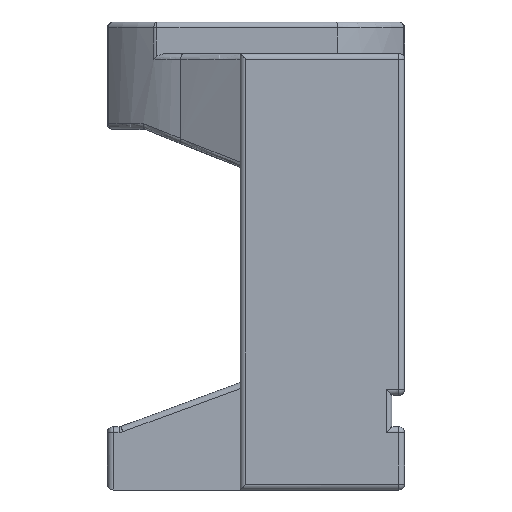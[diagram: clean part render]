
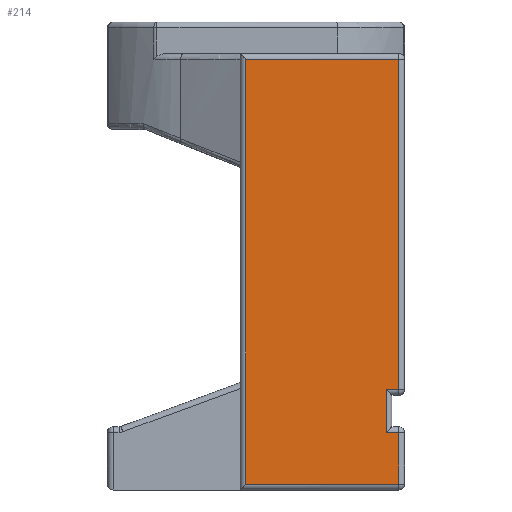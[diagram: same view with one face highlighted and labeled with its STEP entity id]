
A CAD part, left-side view. The second image highlights one B-rep face of the part: STEP entity #214.
In plain terms, the highlighted planar face has unit normal (-1, 0, 0).
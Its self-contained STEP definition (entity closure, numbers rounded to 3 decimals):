
#65 = CARTESIAN_POINT ( 'NONE',  ( -32.5, -24.1, 64. ) ) ;
#137 = EDGE_CURVE ( 'NONE', #3983, #1848, #380, .T. ) ;
#190 = ORIENTED_EDGE ( 'NONE', *, *, #137, .T. ) ;
#214 = ADVANCED_FACE ( 'NONE', ( #2610 ), #3252, .T. ) ;
#347 = CARTESIAN_POINT ( 'NONE',  ( -32.5, -24.1, 4.1 ) ) ;
#351 = CARTESIAN_POINT ( 'NONE',  ( -32.5, 0.1, -4.1 ) ) ;
#380 = LINE ( 'NONE', #4254, #6078 ) ;
#689 = AXIS2_PLACEMENT_3D ( 'NONE', #3267, #3223, #3162 ) ;
#841 = CARTESIAN_POINT ( 'NONE',  ( -32.5, -22.1, 10.9 ) ) ;
#864 = ORIENTED_EDGE ( 'NONE', *, *, #2885, .T. ) ;
#955 = EDGE_CURVE ( 'NONE', #4671, #6356, #5666, .T. ) ;
#1199 = ORIENTED_EDGE ( 'NONE', *, *, #5103, .T. ) ;
#1231 = LINE ( 'NONE', #2419, #6854 ) ;
#1377 = CARTESIAN_POINT ( 'NONE',  ( -32.5, -24.1, 63.1 ) ) ;
#1556 = VECTOR ( 'NONE', #4650, 1000. ) ;
#1571 = VECTOR ( 'NONE', #3800, 1000. ) ;
#1724 = DIRECTION ( 'NONE',  ( 0., 0., 1. ) ) ;
#1754 = LINE ( 'NONE', #4658, #1556 ) ;
#1778 = CARTESIAN_POINT ( 'NONE',  ( -32.5, -24.1, 5. ) ) ;
#1780 = VERTEX_POINT ( 'NONE', #1377 ) ;
#1848 = VERTEX_POINT ( 'NONE', #2117 ) ;
#2117 = CARTESIAN_POINT ( 'NONE',  ( -32.5, -22.1, 4.1 ) ) ;
#2215 = DIRECTION ( 'NONE',  ( 0., 0., 1. ) ) ;
#2407 = DIRECTION ( 'NONE',  ( 0., 0., -1. ) ) ;
#2419 = CARTESIAN_POINT ( 'NONE',  ( -32.5, -22.1, 10. ) ) ;
#2526 = CARTESIAN_POINT ( 'NONE',  ( -32.5, 0.1, -5. ) ) ;
#2586 = ORIENTED_EDGE ( 'NONE', *, *, #2639, .T. ) ;
#2610 = FACE_OUTER_BOUND ( 'NONE', #3019, .T. ) ;
#2639 = EDGE_CURVE ( 'NONE', #4442, #3983, #5553, .T. ) ;
#2885 = EDGE_CURVE ( 'NONE', #3244, #1780, #4143, .T. ) ;
#2904 = VERTEX_POINT ( 'NONE', #841 ) ;
#3019 = EDGE_LOOP ( 'NONE', ( #864, #1199, #6139, #6444, #2586, #190, #6222, #6382 ) ) ;
#3162 = DIRECTION ( 'NONE',  ( 0., 1., 0. ) ) ;
#3223 = DIRECTION ( 'NONE',  ( -1., 0., 0. ) ) ;
#3242 = LINE ( 'NONE', #3736, #1571 ) ;
#3244 = VERTEX_POINT ( 'NONE', #6333 ) ;
#3252 = PLANE ( 'NONE',  #689 ) ;
#3267 = CARTESIAN_POINT ( 'NONE',  ( -32.5, -25., 64. ) ) ;
#3365 = DIRECTION ( 'NONE',  ( 0., 0., 1. ) ) ;
#3736 = CARTESIAN_POINT ( 'NONE',  ( -32.5, -25., 63.1 ) ) ;
#3760 = LINE ( 'NONE', #5507, #5254 ) ;
#3800 = DIRECTION ( 'NONE',  ( 0., 1., 0. ) ) ;
#3983 = VERTEX_POINT ( 'NONE', #347 ) ;
#4052 = VECTOR ( 'NONE', #1724, 1000. ) ;
#4143 = LINE ( 'NONE', #65, #6973 ) ;
#4206 = DIRECTION ( 'NONE',  ( 0., 1., 0. ) ) ;
#4254 = CARTESIAN_POINT ( 'NONE',  ( -32.5, -25., 4.1 ) ) ;
#4442 = VERTEX_POINT ( 'NONE', #5932 ) ;
#4650 = DIRECTION ( 'NONE',  ( 0., -1., 0. ) ) ;
#4658 = CARTESIAN_POINT ( 'NONE',  ( -32.5, -25., -4.1 ) ) ;
#4671 = VERTEX_POINT ( 'NONE', #5419 ) ;
#5103 = EDGE_CURVE ( 'NONE', #1780, #4671, #3242, .T. ) ;
#5254 = VECTOR ( 'NONE', #6954, 1000. ) ;
#5313 = VECTOR ( 'NONE', #2407, 1000. ) ;
#5419 = CARTESIAN_POINT ( 'NONE',  ( -32.5, 0.1, 63.1 ) ) ;
#5453 = EDGE_CURVE ( 'NONE', #2904, #3244, #3760, .T. ) ;
#5507 = CARTESIAN_POINT ( 'NONE',  ( -32.5, -25., 10.9 ) ) ;
#5553 = LINE ( 'NONE', #1778, #4052 ) ;
#5666 = LINE ( 'NONE', #2526, #5313 ) ;
#5932 = CARTESIAN_POINT ( 'NONE',  ( -32.5, -24.1, -4.1 ) ) ;
#6078 = VECTOR ( 'NONE', #4206, 1000. ) ;
#6139 = ORIENTED_EDGE ( 'NONE', *, *, #955, .T. ) ;
#6181 = EDGE_CURVE ( 'NONE', #1848, #2904, #1231, .T. ) ;
#6222 = ORIENTED_EDGE ( 'NONE', *, *, #6181, .T. ) ;
#6333 = CARTESIAN_POINT ( 'NONE',  ( -32.5, -24.1, 10.9 ) ) ;
#6356 = VERTEX_POINT ( 'NONE', #351 ) ;
#6382 = ORIENTED_EDGE ( 'NONE', *, *, #5453, .T. ) ;
#6444 = ORIENTED_EDGE ( 'NONE', *, *, #6859, .T. ) ;
#6854 = VECTOR ( 'NONE', #2215, 1000. ) ;
#6859 = EDGE_CURVE ( 'NONE', #6356, #4442, #1754, .T. ) ;
#6954 = DIRECTION ( 'NONE',  ( 0., -1., 0. ) ) ;
#6973 = VECTOR ( 'NONE', #3365, 1000. ) ;
